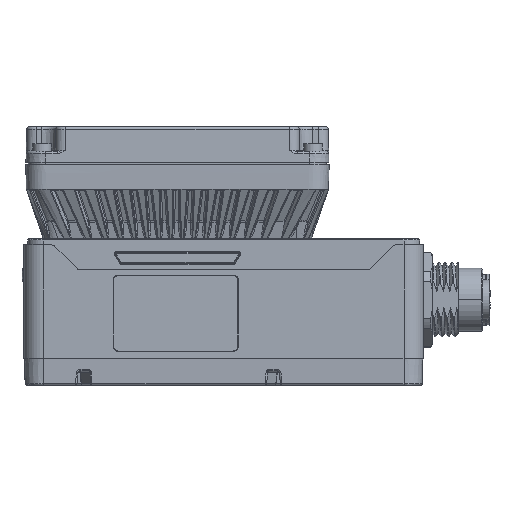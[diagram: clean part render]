
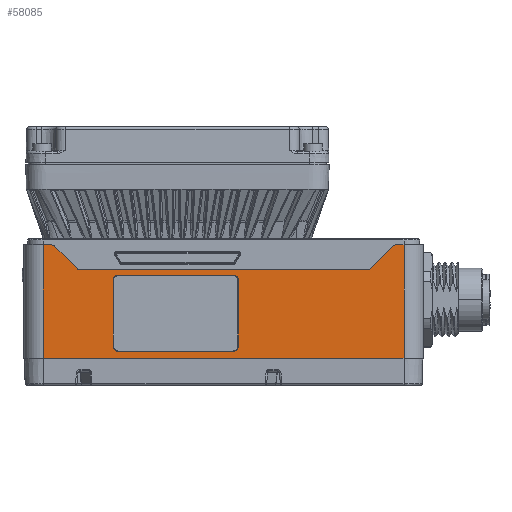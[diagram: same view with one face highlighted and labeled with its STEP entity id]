
A CAD part, left-side view. The second image highlights one B-rep face of the part: STEP entity #58085.
In plain terms, the highlighted planar face has unit normal (-1, 0, 0).
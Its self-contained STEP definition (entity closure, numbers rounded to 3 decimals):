
#1082=DIRECTION('',(0.,0.,-1.));
#1083=VECTOR('',#1082,23.3);
#1084=CARTESIAN_POINT('',(-27.5,37.,-1.2));
#1085=LINE('',#1084,#1083);
#1086=DIRECTION('',(0.,-0.707,-0.707));
#1087=VECTOR('',#1086,6.218);
#1088=CARTESIAN_POINT('',(-27.5,34.649,-1.551));
#1089=LINE('',#1088,#1087);
#1090=CARTESIAN_POINT('',(-27.5,29.403,-5.1));
#1091=DIRECTION('',(-1.,0.,0.));
#1092=DIRECTION('',(0.,0.707,-0.707));
#1093=AXIS2_PLACEMENT_3D('',#1090,#1091,#1092);
#1095=DIRECTION('',(0.,-1.,0.));
#1096=VECTOR('',#1095,58.806);
#1097=CARTESIAN_POINT('',(-27.5,29.403,-6.3));
#1098=LINE('',#1097,#1096);
#1099=CARTESIAN_POINT('',(-27.5,-29.403,-5.1));
#1100=DIRECTION('',(-1.,0.,0.));
#1101=DIRECTION('',(0.,0.,-1.));
#1102=AXIS2_PLACEMENT_3D('',#1099,#1100,#1101);
#1104=DIRECTION('',(0.,-0.707,0.707));
#1105=VECTOR('',#1104,6.218);
#1106=CARTESIAN_POINT('',(-27.5,-30.251,-5.949));
#1107=LINE('',#1106,#1105);
#1108=CARTESIAN_POINT('',(-27.5,-35.497,-2.4));
#1109=DIRECTION('',(1.,0.,0.));
#1110=DIRECTION('',(0.,0.707,0.707));
#1111=AXIS2_PLACEMENT_3D('',#1108,#1109,#1110);
#1113=DIRECTION('',(0.,1.,0.));
#1114=VECTOR('',#1113,74.);
#1115=CARTESIAN_POINT('',(-27.5,-37.,-24.5));
#1116=LINE('',#1115,#1114);
#1117=DIRECTION('',(0.,-1.,0.));
#1118=VECTOR('',#1117,1.503);
#1119=CARTESIAN_POINT('',(-27.5,37.,-1.2));
#1120=LINE('',#1119,#1118);
#1121=CARTESIAN_POINT('',(-27.5,35.497,-2.4));
#1122=DIRECTION('',(1.,0.,0.));
#1123=DIRECTION('',(0.,0.,1.));
#1124=AXIS2_PLACEMENT_3D('',#1121,#1122,#1123);
#1126=CARTESIAN_POINT('',(-27.5,-1.9,-22.));
#1127=DIRECTION('',(-1.,0.,0.));
#1128=DIRECTION('',(0.,0.,-1.));
#1129=AXIS2_PLACEMENT_3D('',#1126,#1127,#1128);
#1131=DIRECTION('',(0.,0.,1.));
#1132=VECTOR('',#1131,13.5);
#1133=CARTESIAN_POINT('',(-27.5,-3.,
-22.));
#1134=LINE('',#1133,#1132);
#1135=CARTESIAN_POINT('',(-27.5,-1.9,-8.5));
#1136=DIRECTION('',(-1.,0.,0.));
#1137=DIRECTION('',(0.,-1.,0.));
#1138=AXIS2_PLACEMENT_3D('',#1135,#1136,#1137);
#1140=DIRECTION('',(0.,1.,0.));
#1141=VECTOR('',#1140,23.5);
#1142=CARTESIAN_POINT('',(-27.5,-1.9,
-7.4));
#1143=LINE('',#1142,#1141);
#1144=CARTESIAN_POINT('',(-27.5,21.6,-8.5));
#1145=DIRECTION('',(-1.,0.,0.));
#1146=DIRECTION('',(0.,0.,1.));
#1147=AXIS2_PLACEMENT_3D('',#1144,#1145,#1146);
#1149=DIRECTION('',(0.,0.,-1.));
#1150=VECTOR('',#1149,13.5);
#1151=CARTESIAN_POINT('',(-27.5,22.7,
-8.5));
#1152=LINE('',#1151,#1150);
#1153=CARTESIAN_POINT('',(-27.5,21.6,-22.));
#1154=DIRECTION('',(-1.,0.,0.));
#1155=DIRECTION('',(0.,1.,0.));
#1156=AXIS2_PLACEMENT_3D('',#1153,#1154,#1155);
#1158=DIRECTION('',(0.,-1.,0.));
#1159=VECTOR('',#1158,23.5);
#1160=CARTESIAN_POINT('',(-27.5,21.6,
-23.1));
#1161=LINE('',#1160,#1159);
#1311=DIRECTION('',(0.,1.,0.));
#1312=VECTOR('',#1311,1.503);
#1313=CARTESIAN_POINT('',(-27.5,-37.,-1.2));
#1314=LINE('',#1313,#1312);
#33208=DIRECTION('',(0.,0.,1.));
#33209=VECTOR('',#33208,23.3);
#33210=CARTESIAN_POINT('',(-27.5,-37.,-24.5));
#33211=LINE('',#33210,#33209);
#49274=CARTESIAN_POINT('',(-27.5,-37.,-1.2));
#49275=VERTEX_POINT('',#49274);
#49276=CARTESIAN_POINT('',(-27.5,-35.497,-1.2));
#49277=VERTEX_POINT('',#49276);
#49315=CARTESIAN_POINT('',(-27.5,37.,-24.5));
#49317=VERTEX_POINT('',#49315);
#49318=CARTESIAN_POINT('',(-27.5,-37.,-24.5));
#49319=VERTEX_POINT('',#49318);
#49382=CARTESIAN_POINT('',(-27.5,35.497,-1.2));
#49383=VERTEX_POINT('',#49382);
#49384=CARTESIAN_POINT('',(-27.5,37.,-1.2));
#49385=VERTEX_POINT('',#49384);
#49562=CARTESIAN_POINT('',(-27.5,-29.403,-6.3));
#49564=VERTEX_POINT('',#49562);
#49566=CARTESIAN_POINT('',(-27.5,29.403,-6.3));
#49567=VERTEX_POINT('',#49566);
#49574=CARTESIAN_POINT('',(-27.5,30.251,-5.949));
#49576=VERTEX_POINT('',#49574);
#49578=CARTESIAN_POINT('',(-27.5,34.649,-1.551));
#49579=VERTEX_POINT('',#49578);
#49582=CARTESIAN_POINT('',(-27.5,-30.251,-5.949));
#49583=VERTEX_POINT('',#49582);
#49584=CARTESIAN_POINT('',(-27.5,-34.649,-1.551));
#49585=VERTEX_POINT('',#49584);
#49586=CARTESIAN_POINT('',(-27.5,-1.9,-23.1));
#49587=CARTESIAN_POINT('',(-27.5,-3.,-22.));
#49588=VERTEX_POINT('',#49586);
#49589=VERTEX_POINT('',#49587);
#49590=CARTESIAN_POINT('',(-27.5,-3.,-8.5));
#49591=VERTEX_POINT('',#49590);
#49592=CARTESIAN_POINT('',(-27.5,-1.9,-7.4));
#49593=VERTEX_POINT('',#49592);
#49594=CARTESIAN_POINT('',(-27.5,21.6,-7.4));
#49595=VERTEX_POINT('',#49594);
#49596=CARTESIAN_POINT('',(-27.5,22.7,-8.5));
#49597=VERTEX_POINT('',#49596);
#49598=CARTESIAN_POINT('',(-27.5,22.7,-22.));
#49599=VERTEX_POINT('',#49598);
#49600=CARTESIAN_POINT('',(-27.5,21.6,-23.1));
#49601=VERTEX_POINT('',#49600);
#58039=CARTESIAN_POINT('',(-27.5,41.,0.));
#58040=DIRECTION('',(-1.,0.,0.));
#58041=DIRECTION('',(0.,-1.,0.));
#58042=AXIS2_PLACEMENT_3D('',#58039,#58040,#58041);
#58043=PLANE('',#58042);
#58045=ORIENTED_EDGE('',*,*,#58044,.T.);
#58047=ORIENTED_EDGE('',*,*,#58046,.T.);
#58049=ORIENTED_EDGE('',*,*,#58048,.T.);
#58051=ORIENTED_EDGE('',*,*,#58050,.T.);
#58053=ORIENTED_EDGE('',*,*,#58052,.T.);
#58055=ORIENTED_EDGE('',*,*,#58054,.T.);
#58057=ORIENTED_EDGE('',*,*,#58056,.F.);
#58059=ORIENTED_EDGE('',*,*,#58058,.F.);
#58060=ORIENTED_EDGE('',*,*,#57197,.T.);
#58061=ORIENTED_EDGE('',*,*,#58033,.F.);
#58062=ORIENTED_EDGE('',*,*,#57916,.T.);
#58064=ORIENTED_EDGE('',*,*,#58063,.T.);
#58065=EDGE_LOOP('',(#58045,#58047,#58049,#58051,#58053,#58055,#58057,#58059,
#58060,#58061,#58062,#58064));
#58066=FACE_OUTER_BOUND('',#58065,.F.);
#58068=ORIENTED_EDGE('',*,*,#58067,.T.);
#58070=ORIENTED_EDGE('',*,*,#58069,.T.);
#58072=ORIENTED_EDGE('',*,*,#58071,.T.);
#58074=ORIENTED_EDGE('',*,*,#58073,.T.);
#58076=ORIENTED_EDGE('',*,*,#58075,.T.);
#58078=ORIENTED_EDGE('',*,*,#58077,.T.);
#58080=ORIENTED_EDGE('',*,*,#58079,.T.);
#58082=ORIENTED_EDGE('',*,*,#58081,.T.);
#58083=EDGE_LOOP('',(#58068,#58070,#58072,#58074,#58076,#58078,#58080,#58082));
#58084=FACE_BOUND('',#58083,.F.);
#58085=ADVANCED_FACE('',(#58066,#58084),#58043,.T.);
#1094=CIRCLE('',#1093,1.2);
#1103=CIRCLE('',#1102,1.2);
#1112=CIRCLE('',#1111,1.2);
#1125=CIRCLE('',#1124,1.2);
#1130=CIRCLE('',#1129,1.1);
#1139=CIRCLE('',#1138,1.1);
#1148=CIRCLE('',#1147,1.1);
#1157=CIRCLE('',#1156,1.1);
#57197=EDGE_CURVE('',#49319,#49317,#1116,.T.);
#57916=EDGE_CURVE('',#49385,#49383,#1120,.T.);
#58033=EDGE_CURVE('',#49385,#49317,#1085,.T.);
#58044=EDGE_CURVE('',#49579,#49576,#1089,.T.);
#58046=EDGE_CURVE('',#49576,#49567,#1094,.T.);
#58048=EDGE_CURVE('',#49567,#49564,#1098,.T.);
#58050=EDGE_CURVE('',#49564,#49583,#1103,.T.);
#58052=EDGE_CURVE('',#49583,#49585,#1107,.T.);
#58054=EDGE_CURVE('',#49585,#49277,#1112,.T.);
#58056=EDGE_CURVE('',#49275,#49277,#1314,.T.);
#58058=EDGE_CURVE('',#49319,#49275,#33211,.T.);
#58063=EDGE_CURVE('',#49383,#49579,#1125,.T.);
#58067=EDGE_CURVE('',#49588,#49589,#1130,.T.);
#58069=EDGE_CURVE('',#49589,#49591,#1134,.T.);
#58071=EDGE_CURVE('',#49591,#49593,#1139,.T.);
#58073=EDGE_CURVE('',#49593,#49595,#1143,.T.);
#58075=EDGE_CURVE('',#49595,#49597,#1148,.T.);
#58077=EDGE_CURVE('',#49597,#49599,#1152,.T.);
#58079=EDGE_CURVE('',#49599,#49601,#1157,.T.);
#58081=EDGE_CURVE('',#49601,#49588,#1161,.T.);
